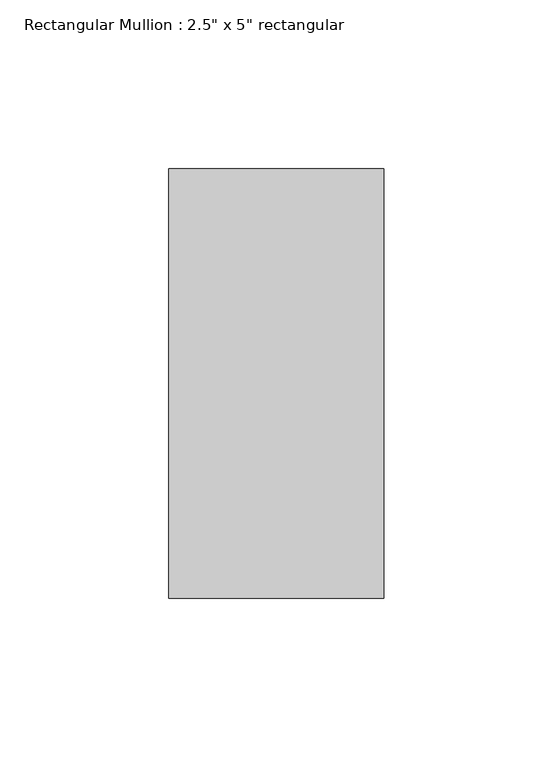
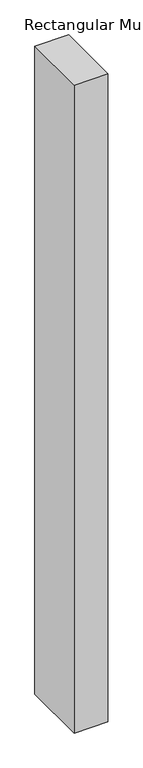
"""IFC4 building model written with IfcOpenShell, lengths in millimetres: member geometry."""

from ifc_helpers import new_model, si_unit, frame, origin, place, context, project, spatial, polyline, outline, extrude, source, transform, mapped, element, save


def member_5783932f(model_context):
    return source(origin(), model_context, "Body", "SweptSolid", [
        extrude(outline(polyline([(0.0, 63.5), (0.0, -63.5), (-63.5, -63.5), (-63.5, 63.5), (0.0, 63.5)])), frame((0.0, 0.0, -1282.7), z_axis=(0.0, 0.0, 1.0), x_axis=(1.0, 0.0, 0.0)), (0.0, 0.0, 1.0), 1282.7),
    ])


if __name__ == "__main__":
    model = new_model("IFC4")
    model_context = context("Model", 3, world=origin())
    ifc_project = project(units=[si_unit("LENGTHUNIT", "METRE", prefix="MILLI")], contexts=[model_context])
    site = spatial("IfcSite", under=ifc_project)
    building = spatial("IfcBuilding", under=site)
    placement = place(None, origin())
    member_shape = member_5783932f(model_context)
    element("IfcMember", 1, ObjectType="Rectangular Mullion : 2.5\" x 5\" rectangular", at=placement, inside=building, context=model_context, shape_type="MappedRepresentation", body=[
        mapped(member_shape, transform((0.0, 0.0, 0.0), x_axis=(1.0, 0.0, 0.0), y_axis=(0.0, 1.0, 0.0), z_axis=(0.0, 0.0, 1.0))),
    ])
    save(model, "model.ifc")
